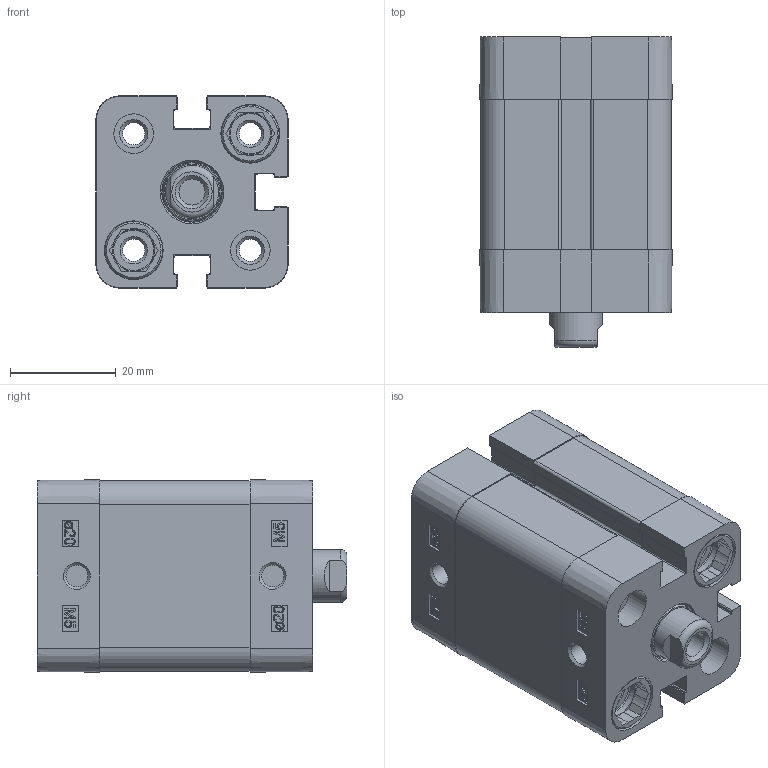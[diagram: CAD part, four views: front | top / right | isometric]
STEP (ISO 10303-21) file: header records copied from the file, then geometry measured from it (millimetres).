
FILE_DESCRIPTION(/* description */ ('Unknown'),/* implementation_level */ '2;1');
FILE_NAME(/* name */ 'ZIN 20_15',/* time_stamp */ '2025-01-24T11:57:13+01:00',/* author */ ('Unknown'),/* organization */ ('HAFNER Pneumatika Kft'),/* preprocessor_version */ 'ST-DEVELOPER v16.7',/* originating_system */ 'Solid Edge',/* authorisation */ 'Unknown');
FILE_SCHEMA (('AUTOMOTIVE_DESIGN {1 0 10303 214 3 1 1}'));
Length unit declared in the file: millimetre
Products named in the file (5): ZIN 20_15; Kit_1; Kit_2; Profilrohr; Kolbenstange
Assembly tree (4 placements, depth 2):
  ZIN 20_15
    Kit_1
    Kit_2
    Profilrohr
    Kolbenstange
Bounding box: 36.3 x 58.5 x 36.3 mm (x, y, z)
Volume: 49505 mm3; surface area: 27024.3 mm2
Topology: 4 solids, 8 shells, 573 faces, 1545 edges, 1024 vertices
Faces by surface type: plane 282, cylinder 149, bspline 86, cone 44, torus 12
Full cylindrical faces by diameter (mm): 4.134 x10, 4.917 x2, 7.5 x4, 7.55 x4, 8 x8, 9 x1, 10 x1, 10.48 x1, 10.9 x4, 11.1 x4, 11.4 x1, 12 x1, 13.84 x1, 14 x1, 20 x2
Entity records: 21354 total; most frequent: CARTESIAN_POINT 4171, ORIENTED_EDGE 2820, DIRECTION 2564, EDGE_CURVE 1410, VERTEX_POINT 979, AXIS2_PLACEMENT_3D 862, LINE 840, VECTOR 840
